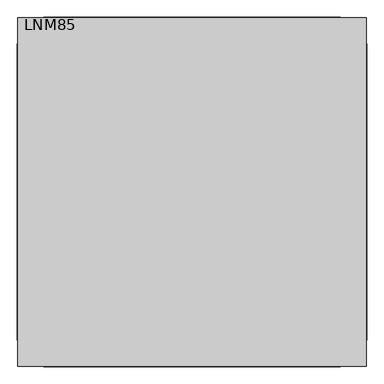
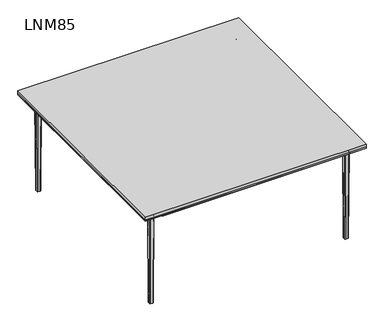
"""IFC4 building model written with IfcOpenShell, lengths in millimetres: furniture geometry, Contact Desks and Operative Twin Desks : LNM85."""

from ifc_helpers import new_model, si_unit, point, frame, origin, place, context, project, spatial, polyline, circle_curve, ellipse_curve, trimmed, outline, extrude, faceted_brep, source, transform, mapped, element, save
from ifc_brep_helpers import plane_surface, cylinder_surface, revolved_surface, extruded_surface, advanced_brep


def lnm85_bd95a6df(model_context):
    return source(origin(), model_context, "Body", "SolidModel", [
        extrude(outline(polyline([(800.0, -680.0), (800.0, -800.0), (680.0, -800.0), (680.0, -680.0), (800.0, -680.0)])), frame((0.0, 0.0, 710.0), z_axis=(0.0, 0.0, 1.0), x_axis=(1.0, 0.0, 0.0)), (0.0, 0.0, 1.0), 10.0),
        extrude(outline(polyline([(800.0, 800.0), (800.0, 680.0), (680.0, 680.0), (680.0, 800.0), (800.0, 800.0)])), frame((0.0, 0.0, 710.0), z_axis=(0.0, 0.0, 1.0), x_axis=(1.0, 0.0, 0.0)), (0.0, 0.0, 1.0), 10.0),
        extrude(outline(polyline([(-680.0, 800.0), (-680.0, 680.0), (-800.0, 680.0), (-800.0, 800.0), (-680.0, 800.0)])), frame((0.0, 0.0, 710.0), z_axis=(0.0, 0.0, 1.0), x_axis=(1.0, 0.0, 0.0)), (0.0, 0.0, 1.0), 10.0),
        extrude(outline(polyline([(-800.0, 680.0), (-680.0, 680.0), (-680.0, -680.0), (-800.0, -680.0), (-800.0, 680.0)])), frame((0.0, 0.0, 710.0), z_axis=(0.0, 0.0, 1.0), x_axis=(1.0, 0.0, 0.0)), (0.0, 0.0, 1.0), 10.0),
        extrude(outline(polyline([(680.0, 680.0), (800.0, 680.0), (800.0, -680.0), (680.0, -680.0), (680.0, 680.0)])), frame((0.0, 0.0, 710.0), z_axis=(0.0, 0.0, 1.0), x_axis=(1.0, 0.0, 0.0)), (0.0, 0.0, 1.0), 10.0),
        extrude(outline(polyline([(680.0, -680.0), (680.0, -800.0), (-680.0, -800.0), (-680.0, -680.0), (680.0, -680.0)])), frame((0.0, 0.0, 710.0), z_axis=(0.0, 0.0, 1.0), x_axis=(1.0, 0.0, 0.0)), (0.0, 0.0, 1.0), 10.0),
        extrude(outline(polyline([(680.0, 800.0), (680.0, 680.0), (-680.0, 680.0), (-680.0, 800.0), (680.0, 800.0)])), frame((0.0, 0.0, 710.0), z_axis=(0.0, 0.0, 1.0), x_axis=(1.0, 0.0, 0.0)), (0.0, 0.0, 1.0), 10.0),
        extrude(outline(polyline([(710.0, 680.0), (675.0, 680.0), (675.0, 728.7129935), (710.0, 801.7129935), (710.0, 680.0)])), frame((0.0, -680.0, 0.0), z_axis=(0.0, 1.0, 0.0), x_axis=(0.0, 0.0, 1.0)), (0.0, 0.0, 1.0), 1360.0),
        extrude(outline(polyline([(710.0, -680.0), (710.0, -801.7129935), (675.0, -728.7129935), (675.0, -680.0), (710.0, -680.0)])), frame((0.0, -680.0, 0.0), z_axis=(0.0, 1.0, 0.0), x_axis=(0.0, 0.0, 1.0)), (0.0, 0.0, 1.0), 1360.0),
        extrude(outline(polyline([(680.0, 710.0), (801.7129935, 710.0), (728.7129935, 675.0), (680.0, 675.0), (680.0, 710.0)])), frame((-680.0, 0.0, 0.0), z_axis=(1.0, 0.0, 0.0), x_axis=(0.0, 1.0, 0.0)), (0.0, 0.0, 1.0), 1360.0),
        extrude(outline(polyline([(-680.0, 710.0), (-680.0, 675.0), (-728.7129935, 675.0), (-801.7129935, 710.0), (-680.0, 710.0)])), frame((-680.0, 0.0, 0.0), z_axis=(1.0, 0.0, 0.0), x_axis=(0.0, 1.0, 0.0)), (0.0, 0.0, 1.0), 1360.0),
        faceted_brep([(-680.0, 680.0, 710.0), (-680.0, 800.0, 710.0), (-800.0, 800.0, 710.0), (-800.0, 680.0, 710.0), (-680.0, 680.0, 675.0), (-727.0, 680.0, 675.0), (-727.0, 727.0, 675.0), (-680.0, 727.0, 675.0)], [[[0, 1, 2, 3]], [[4, 5, 6, 7]], [[1, 0, 4, 7]], [[0, 3, 5, 4]], [[6, 2, 1, 7]], [[2, 6, 5, 3]]]),
        advanced_brep(
        [(-687.0, 695.0, 675.0), (-687.0, 719.0, 675.0), (-695.0, 727.0, 675.0), (-719.0, 727.0, 675.0), (-727.0, 719.0, 675.0), (-727.0, 695.0, 675.0), (-719.0, 687.0, 675.0), (-695.0, 687.0, 675.0), (-719.0, 692.0, 665.0), (-722.0, 695.0, 665.0), (-722.0, 719.0, 665.0), (-719.0, 722.0, 665.0), (-695.0, 722.0, 665.0), (-692.0, 719.0, 665.0), (-692.0, 695.0, 665.0), (-695.0, 692.0, 665.0), (-687.0, 695.0, 672.0), (-687.0, 719.0, 672.0), (-695.0, 727.0, 672.0), (-719.0, 727.0, 672.0), (-727.0, 719.0, 672.0), (-727.0, 695.0, 672.0), (-719.0, 687.0, 672.0), (-695.0, 687.0, 672.0)],
        [
            (0, 1),
            (1, 2, circle_curve(frame((-695.0, 719.0, 675.0), z_axis=(0.0, 0.0, 1.0), x_axis=(0.0, -1.0000000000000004, 0.0)), 8.0)),
            (2, 3),
            (3, 4, circle_curve(frame((-719.0, 719.0, 675.0), z_axis=(0.0, 0.0, 1.0), x_axis=(0.0, -1.0000000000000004, 0.0)), 8.0)),
            (4, 5),
            (5, 6, circle_curve(frame((-719.0, 695.0, 675.0), z_axis=(0.0, 0.0, 1.0), x_axis=(0.0, -1.0000000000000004, 0.0)), 8.0)),
            (6, 7),
            (7, 0, circle_curve(frame((-695.0, 695.0, 675.0), z_axis=(0.0, 0.0, 1.0), x_axis=(0.0, -1.0000000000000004, 0.0)), 8.0)),
            (8, 9, circle_curve(frame((-719.0, 695.0, 665.0), z_axis=(0.0, 0.0, -1.0), x_axis=(0.0, -1.0000000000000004, 0.0)), 3.0)),
            (9, 10),
            (10, 11, circle_curve(frame((-719.0, 719.0, 665.0), z_axis=(0.0, 0.0, -1.0), x_axis=(-1.0000000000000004, 0.0, 0.0)), 3.0)),
            (11, 12),
            (12, 13, circle_curve(frame((-695.0, 719.0, 665.0), z_axis=(0.0, 0.0, -1.0), x_axis=(0.0, 1.0000000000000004, 0.0)), 3.0)),
            (13, 14),
            (14, 15, circle_curve(frame((-695.0, 695.0, 665.0), z_axis=(0.0, 0.0, -1.0), x_axis=(1.0000000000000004, 0.0, 0.0)), 3.0)),
            (15, 8),
            (0, 16),
            (16, 17),
            (17, 1),
            (17, 18, circle_curve(frame((-695.0, 719.0, 672.0), z_axis=(0.0, 0.0, 1.0), x_axis=(0.0, -1.0000000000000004, 0.0)), 8.0)),
            (18, 2),
            (18, 19),
            (19, 3),
            (19, 20, circle_curve(frame((-719.0, 719.0, 672.0), z_axis=(0.0, 0.0, 1.0), x_axis=(0.0, -1.0000000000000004, 0.0)), 8.0)),
            (20, 4),
            (20, 21),
            (21, 5),
            (21, 22, circle_curve(frame((-719.0, 695.0, 672.0), z_axis=(0.0, 0.0, 1.0), x_axis=(0.0, -1.0000000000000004, 0.0)), 8.0)),
            (22, 6),
            (22, 23),
            (23, 7),
            (23, 16, circle_curve(frame((-695.0, 695.0, 672.0), z_axis=(0.0, 0.0, 1.0), x_axis=(0.0, -1.0000000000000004, 0.0)), 8.0)),
            (21, 9, circle_curve(frame((-730.9600528, 695.0, 663.8856766), z_axis=(0.0, 1.0000000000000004, 0.0), x_axis=(-1.0000000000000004, 0.0, 0.0)), 9.0290787)),
            (8, 22, circle_curve(frame((-719.0, 683.0399472, 663.8856766), z_axis=(1.0000000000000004, 0.0, 0.0), x_axis=(0.0, -1.0000000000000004, 0.0)), 9.0290787)),
            (20, 10, circle_curve(frame((-730.9600528, 719.0, 663.8856766), z_axis=(0.0, 1.0, 0.0), x_axis=(-1.0000000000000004, 0.0, 0.0)), 9.0290787)),
            (19, 11, circle_curve(frame((-719.0, 730.9600528, 663.8856766), z_axis=(1.0000000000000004, 0.0, 0.0), x_axis=(0.0, 1.0000000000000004, 0.0)), 9.0290787)),
            (18, 12, circle_curve(frame((-695.0, 730.9600528, 663.8856766), z_axis=(1.0, 0.0, 0.0), x_axis=(0.0, 1.0000000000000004, 0.0)), 9.0290787)),
            (17, 13, circle_curve(frame((-683.0399472, 719.0, 663.8856766), z_axis=(0.0, -1.0000000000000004, 0.0), x_axis=(1.0000000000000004, 0.0, 0.0)), 9.0290787)),
            (16, 14, circle_curve(frame((-683.0399472, 695.0, 663.8856766), z_axis=(0.0, -1.0, 0.0), x_axis=(1.0000000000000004, 0.0, 0.0)), 9.0290787)),
            (23, 15, circle_curve(frame((-695.0, 683.0399472, 663.8856766), z_axis=(-1.0000000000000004, 0.0, 0.0), x_axis=(0.0, -1.0000000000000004, 0.0)), 9.0290787)),
        ],
        [
            plane_surface(frame((-687.0, 1380.663284, 675.0), z_axis=(0.0, 0.0, 1.0), x_axis=(0.0, 1.0, 0.0))),
            plane_surface(frame((-687.0, 1380.663284, 665.0), z_axis=(0.0, 0.0, -1.0), x_axis=(0.0, -1.0, 0.0))),
            plane_surface(frame((-687.0, 695.0, 675.0), z_axis=(1.0, 0.0, 0.0), x_axis=(0.0, 0.0, -1.0))),
            cylinder_surface(frame((-695.0, 719.0, 665.0), z_axis=(0.0, 0.0, 1.0), x_axis=(0.0, -1.0000000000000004, 0.0)), 8.0),
            plane_surface(frame((-695.0, 727.0, 675.0), z_axis=(0.0, 1.0, 0.0), x_axis=(0.0, 0.0, -1.0))),
            cylinder_surface(frame((-719.0, 719.0, 665.0), z_axis=(0.0, 0.0, 1.0), x_axis=(0.0, -1.0000000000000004, 0.0)), 8.0),
            plane_surface(frame((-727.0, 719.0, 675.0), z_axis=(-1.0, 0.0, 0.0), x_axis=(0.0, 0.0, -1.0))),
            cylinder_surface(frame((-719.0, 695.0, 665.0), z_axis=(0.0, 0.0, 1.0), x_axis=(0.0, -1.0000000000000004, 0.0)), 8.0),
            plane_surface(frame((-719.0, 687.0, 675.0), z_axis=(0.0, -1.0, 0.0), x_axis=(0.0, 0.0, -1.0))),
            cylinder_surface(frame((-695.0, 695.0, 665.0), z_axis=(0.0, 0.0, 1.0), x_axis=(0.0, -1.0000000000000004, 0.0)), 8.0),
            revolved_surface(trimmed(ellipse_curve(frame((-719.0, 683.0399472, 663.8856766), z_axis=(-1.0000000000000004, 0.0, 0.0), x_axis=(0.0, -1.0000000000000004, 0.0)), 9.0290787, 9.0290787), [point((-719.0, 687.0, 672.0))], [point((-719.0, 692.0, 665.0))], True, "CARTESIAN"), (-719.0, 695.0, 0.0), (0.0, 0.0, -1.0)),
            revolved_surface(polyline([(-739.9891315, 695.0, 663.8856766), (-739.9891315, 719.0, 663.8856766)]), (-730.9600528, 695.0, 663.8856766), (0.0, -1.0000000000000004, 0.0)),
            revolved_surface(trimmed(ellipse_curve(frame((-730.9600528, 719.0, 663.8856766), z_axis=(0.0, 1.0000000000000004, 0.0), x_axis=(-1.0000000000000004, 0.0, 0.0)), 9.0290787, 9.0290787), [point((-727.0, 719.0, 672.0))], [point((-722.0, 719.0, 665.0))], True, "CARTESIAN"), (-719.0, 719.0, 0.0), (0.0, 0.0, -1.0)),
            revolved_surface(polyline([(-719.0, 739.9891315, 663.8856766), (-695.0, 739.9891315, 663.8856766)]), (-719.0, 730.9600528, 663.8856766), (-1.0000000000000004, 0.0, 0.0)),
            revolved_surface(trimmed(ellipse_curve(frame((-695.0, 730.9600528, 663.8856766), z_axis=(1.0000000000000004, 0.0, 0.0), x_axis=(0.0, 1.0000000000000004, 0.0)), 9.0290787, 9.0290787), [point((-695.0, 727.0, 672.0))], [point((-695.0, 722.0, 665.0))], True, "CARTESIAN"), (-695.0, 719.0, 0.0), (0.0, 0.0, -1.0)),
            revolved_surface(polyline([(-674.0108685, 719.0, 663.8856766), (-674.0108685, 695.0, 663.8856766)]), (-683.0399472, 719.0, 663.8856766), (0.0, 1.0000000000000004, 0.0)),
            revolved_surface(trimmed(ellipse_curve(frame((-683.0399472, 695.0, 663.8856766), z_axis=(0.0, -1.0000000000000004, 0.0), x_axis=(1.0000000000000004, 0.0, 0.0)), 9.0290787, 9.0290787), [point((-687.0, 695.0, 672.0))], [point((-692.0, 695.0, 665.0))], True, "CARTESIAN"), (-695.0, 695.0, 0.0), (0.0, 0.0, -1.0)),
            revolved_surface(polyline([(-695.0, 674.0108685, 663.8856766), (-719.0, 674.0108685, 663.8856766)]), (-695.0, 683.0399472, 663.8856766), (1.0000000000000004, 0.0, 0.0)),
        ],
        [
            (0, [[1, 2, 3, 4, 5, 6, 7, 8]]),
            (1, [[9, 10, 11, 12, 13, 14, 15, 16]]),
            (2, [[-1, 17, 18, 19]]),
            (3, [[-2, -19, 20, 21]]),
            (4, [[-3, -21, 22, 23]]),
            (5, [[-4, -23, 24, 25]]),
            (6, [[-5, -25, 26, 27]]),
            (7, [[-6, -27, 28, 29]]),
            (8, [[-7, -29, 30, 31]]),
            (9, [[-8, -31, 32, -17]]),
            (10, [[33, -9, 34, -28]]),
            (11, [[-33, -26, 35, -10]]),
            (12, [[-35, -24, 36, -11]]),
            (13, [[-36, -22, 37, -12]]),
            (14, [[-37, -20, 38, -13]]),
            (15, [[-38, -18, 39, -14]]),
            (16, [[-39, -32, 40, -15]]),
            (17, [[-34, -16, -40, -30]]),
        ],
    ),
        advanced_brep(
        [(-719.0, 722.0, 665.0), (-722.0, 719.0, 665.0), (-722.0, 695.0, 665.0), (-719.0, 692.0, 665.0), (-695.0, 692.0, 665.0), (-692.0, 695.0, 665.0), (-692.0, 719.0, 665.0), (-695.0, 722.0, 665.0), (-716.0, 719.0, 0.0), (-698.0, 719.0, 0.0), (-695.0, 716.0, 0.0), (-695.0, 698.0, 0.0), (-698.0, 695.0, 0.0), (-716.0, 695.0, 0.0), (-719.0, 698.0, 0.0), (-719.0, 716.0, 0.0)],
        [
            (0, 1, circle_curve(frame((-719.0, 719.0, 665.0), z_axis=(0.0, 0.0, 1.0), x_axis=(0.0, -1.0, 0.0)), 3.0)),
            (1, 2),
            (2, 3, circle_curve(frame((-719.0, 695.0, 665.0), z_axis=(0.0, 0.0, 1.0), x_axis=(0.0, -1.0, 0.0)), 3.0)),
            (3, 4),
            (4, 5, circle_curve(frame((-695.0, 695.0, 665.0), z_axis=(0.0, 0.0, 1.0), x_axis=(0.0, -1.0, 0.0)), 3.0)),
            (5, 6),
            (6, 7, circle_curve(frame((-695.0, 719.0, 665.0), z_axis=(0.0, 0.0, 1.0), x_axis=(0.0, -1.0, 0.0)), 3.0)),
            (7, 0),
            (8, 9),
            (9, 10, circle_curve(frame((-698.0, 716.0, 0.0), z_axis=(0.0, 0.0, -1.0), x_axis=(0.0, -1.0, 0.0)), 3.0)),
            (10, 11),
            (11, 12, circle_curve(frame((-698.0, 698.0, 0.0), z_axis=(0.0, 0.0, -1.0), x_axis=(0.0, -1.0, 0.0)), 3.0)),
            (12, 13),
            (13, 14, circle_curve(frame((-716.0, 698.0, 0.0), z_axis=(0.0, 0.0, -1.0), x_axis=(0.0, -1.0, 0.0)), 3.0)),
            (14, 15),
            (15, 8, circle_curve(frame((-716.0, 716.0, 0.0), z_axis=(0.0, 0.0, -1.0), x_axis=(0.0, -1.0, 0.0)), 3.0)),
            (15, 1),
            (0, 8),
            (14, 2),
            (13, 3),
            (12, 4),
            (11, 5),
            (10, 6),
            (9, 7),
        ],
        [
            plane_surface(frame((-707.0, 707.0, 665.0), z_axis=(0.0, 0.0, 1.0), x_axis=(0.0, 1.0, 0.0))),
            plane_surface(frame((-707.0, 707.0, 0.0), z_axis=(0.0, 0.0, -1.0), x_axis=(0.0, 1.0, 0.0))),
            extruded_surface(trimmed(circle_curve(frame((-716.0, 716.0, 0.0), z_axis=(0.0, 0.0, 1.0), x_axis=(0.0, -1.0, 0.0)), 3.0), [point((-716.0, 719.0, 0.0))], [point((-719.0, 716.0, 0.0))], True, "CARTESIAN"), (-3.0, 3.0, 665.0), 665.0135336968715),
            plane_surface(frame((-719.0, 707.0, 0.0), z_axis=(-0.9999898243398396, 0.0, -0.004511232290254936), x_axis=(0.0, -1.0, 0.0))),
            extruded_surface(trimmed(circle_curve(frame((-716.0, 698.0, 0.0), z_axis=(0.0, 0.0, 1.0), x_axis=(0.0, -1.0, 0.0)), 3.0), [point((-719.0, 698.0, 0.0))], [point((-716.0, 695.0, 0.0))], True, "CARTESIAN"), (-3.0, -3.0, 665.0), 665.0135336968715),
            plane_surface(frame((-707.0, 695.0, 0.0), z_axis=(0.0, -0.9999898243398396, -0.004511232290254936), x_axis=(1.0, 0.0, 0.0))),
            extruded_surface(trimmed(circle_curve(frame((-698.0, 698.0, 0.0), z_axis=(0.0, 0.0, 1.0), x_axis=(0.0, -1.0, 0.0)), 3.0), [point((-698.0, 695.0, 0.0))], [point((-695.0, 698.0, 0.0))], True, "CARTESIAN"), (3.0, -3.0, 665.0), 665.0135336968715),
            plane_surface(frame((-695.0, 707.0, 0.0), z_axis=(0.9999898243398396, 0.0, -0.004511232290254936), x_axis=(0.0, 1.0, 0.0))),
            extruded_surface(trimmed(circle_curve(frame((-698.0, 716.0, 0.0), z_axis=(0.0, 0.0, 1.0), x_axis=(0.0, -1.0, 0.0)), 3.0), [point((-695.0, 716.0, 0.0))], [point((-698.0, 719.0, 0.0))], True, "CARTESIAN"), (3.0, 3.0, 665.0), 665.0135336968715),
            plane_surface(frame((-707.0, 719.0, 0.0), z_axis=(0.0, 0.9999898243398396, -0.004511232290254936), x_axis=(-1.0, 0.0, 0.0))),
        ],
        [
            (0, [[1, 2, 3, 4, 5, 6, 7, 8]]),
            (1, [[9, 10, 11, 12, 13, 14, 15, 16]]),
            (2, [[-16, 17, -1, 18]]),
            (3, [[-15, 19, -2, -17]]),
            (4, [[-14, 20, -3, -19]]),
            (5, [[-13, 21, -4, -20]]),
            (6, [[-12, 22, -5, -21]]),
            (7, [[-11, 23, -6, -22]]),
            (8, [[-10, 24, -7, -23]]),
            (9, [[-9, -18, -8, -24]]),
        ],
    ),
        faceted_brep([(680.0, -680.0, 710.0), (680.0, -800.0, 710.0), (800.0, -800.0, 710.0), (800.0, -680.0, 710.0), (680.0, -680.0, 675.0), (727.0, -680.0, 675.0), (727.0, -727.0, 675.0), (680.0, -727.0, 675.0)], [[[0, 1, 2, 3]], [[4, 5, 6, 7]], [[1, 0, 4, 7]], [[0, 3, 5, 4]], [[6, 2, 1, 7]], [[2, 6, 5, 3]]]),
        advanced_brep(
        [(687.0, -695.0, 675.0), (687.0, -719.0, 675.0), (695.0, -727.0, 675.0), (719.0, -727.0, 675.0), (727.0, -719.0, 675.0), (727.0, -695.0, 675.0), (719.0, -687.0, 675.0), (695.0, -687.0, 675.0), (719.0, -692.0, 665.0), (722.0, -695.0, 665.0), (722.0, -719.0, 665.0), (719.0, -722.0, 665.0), (695.0, -722.0, 665.0), (692.0, -719.0, 665.0), (692.0, -695.0, 665.0), (695.0, -692.0, 665.0), (687.0, -695.0, 672.0), (687.0, -719.0, 672.0), (695.0, -727.0, 672.0), (719.0, -727.0, 672.0), (727.0, -719.0, 672.0), (727.0, -695.0, 672.0), (719.0, -687.0, 672.0), (695.0, -687.0, 672.0)],
        [
            (0, 1),
            (1, 2, circle_curve(frame((695.0, -719.0, 675.0), z_axis=(0.0, 0.0, 1.0), x_axis=(0.0, 1.0000000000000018, 0.0)), 8.0)),
            (2, 3),
            (3, 4, circle_curve(frame((719.0, -719.0, 675.0), z_axis=(0.0, 0.0, 1.0), x_axis=(0.0, 1.0000000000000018, 0.0)), 8.0)),
            (4, 5),
            (5, 6, circle_curve(frame((719.0, -695.0, 675.0), z_axis=(0.0, 0.0, 1.0), x_axis=(0.0, 1.0000000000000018, 0.0)), 8.0)),
            (6, 7),
            (7, 0, circle_curve(frame((695.0, -695.0, 675.0), z_axis=(0.0, 0.0, 1.0), x_axis=(0.0, 1.0000000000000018, 0.0)), 8.0)),
            (8, 9, circle_curve(frame((719.0, -695.0, 665.0), z_axis=(0.0, 0.0, -1.0), x_axis=(0.0, 1.0000000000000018, 0.0)), 3.0)),
            (9, 10),
            (10, 11, circle_curve(frame((719.0, -719.0, 665.0), z_axis=(0.0, 0.0, -1.0), x_axis=(1.0000000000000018, 0.0, 0.0)), 3.0)),
            (11, 12),
            (12, 13, circle_curve(frame((695.0, -719.0, 665.0), z_axis=(0.0, 0.0, -1.0), x_axis=(0.0, -1.0000000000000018, 0.0)), 3.0)),
            (13, 14),
            (14, 15, circle_curve(frame((695.0, -695.0, 665.0), z_axis=(0.0, 0.0, -1.0), x_axis=(-1.0000000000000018, 0.0, 0.0)), 3.0)),
            (15, 8),
            (0, 16),
            (16, 17),
            (17, 1),
            (17, 18, circle_curve(frame((695.0, -719.0, 672.0), z_axis=(0.0, 0.0, 1.0), x_axis=(0.0, 1.0000000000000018, 0.0)), 8.0)),
            (18, 2),
            (18, 19),
            (19, 3),
            (19, 20, circle_curve(frame((719.0, -719.0, 672.0), z_axis=(0.0, 0.0, 1.0), x_axis=(0.0, 1.0000000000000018, 0.0)), 8.0)),
            (20, 4),
            (20, 21),
            (21, 5),
            (21, 22, circle_curve(frame((719.0, -695.0, 672.0), z_axis=(0.0, 0.0, 1.0), x_axis=(0.0, 1.0000000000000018, 0.0)), 8.0)),
            (22, 6),
            (22, 23),
            (23, 7),
            (23, 16, circle_curve(frame((695.0, -695.0, 672.0), z_axis=(0.0, 0.0, 1.0), x_axis=(0.0, 1.0000000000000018, 0.0)), 8.0)),
            (21, 9, circle_curve(frame((730.9600528, -695.0, 663.8856766), z_axis=(0.0, -1.0000000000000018, 0.0), x_axis=(1.0000000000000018, 0.0, 0.0)), 9.0290787)),
            (8, 22, circle_curve(frame((719.0, -683.0399472, 663.8856766), z_axis=(-1.0000000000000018, 0.0, 0.0), x_axis=(0.0, 1.0000000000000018, 0.0)), 9.0290787)),
            (20, 10, circle_curve(frame((730.9600528, -719.0, 663.8856766), z_axis=(0.0, -1.0, 0.0), x_axis=(1.0000000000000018, 0.0, 0.0)), 9.0290787)),
            (19, 11, circle_curve(frame((719.0, -730.9600528, 663.8856766), z_axis=(-1.0000000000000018, 0.0, 0.0), x_axis=(0.0, -1.0000000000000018, 0.0)), 9.0290787)),
            (18, 12, circle_curve(frame((695.0, -730.9600528, 663.8856766), z_axis=(-1.0, 0.0, 0.0), x_axis=(0.0, -1.0000000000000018, 0.0)), 9.0290787)),
            (17, 13, circle_curve(frame((683.0399472, -719.0, 663.8856766), z_axis=(0.0, 1.0000000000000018, 0.0), x_axis=(-1.0000000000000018, 0.0, 0.0)), 9.0290787)),
            (16, 14, circle_curve(frame((683.0399472, -695.0, 663.8856766), z_axis=(0.0, 1.0, 0.0), x_axis=(-1.0000000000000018, 0.0, 0.0)), 9.0290787)),
            (23, 15, circle_curve(frame((695.0, -683.0399472, 663.8856766), z_axis=(1.0000000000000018, 0.0, 0.0), x_axis=(0.0, 1.0000000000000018, 0.0)), 9.0290787)),
        ],
        [
            plane_surface(frame((687.0, -1380.663284, 675.0), z_axis=(0.0, 0.0, 1.0), x_axis=(0.0, -1.0, 0.0))),
            plane_surface(frame((687.0, -1380.663284, 665.0), z_axis=(0.0, 0.0, -1.0), x_axis=(0.0, 1.0, 0.0))),
            plane_surface(frame((687.0, -695.0, 675.0), z_axis=(-1.0, 0.0, 0.0), x_axis=(0.0, 0.0, -1.0))),
            cylinder_surface(frame((695.0, -719.0, 665.0), z_axis=(0.0, 0.0, 1.0), x_axis=(0.0, 1.0000000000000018, 0.0)), 8.0),
            plane_surface(frame((695.0, -727.0, 675.0), z_axis=(0.0, -1.0, 0.0), x_axis=(0.0, 0.0, -1.0))),
            cylinder_surface(frame((719.0, -719.0, 665.0), z_axis=(0.0, 0.0, 1.0), x_axis=(0.0, 1.0000000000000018, 0.0)), 8.0),
            plane_surface(frame((727.0, -719.0, 675.0), z_axis=(1.0, 0.0, 0.0), x_axis=(0.0, 0.0, -1.0))),
            cylinder_surface(frame((719.0, -695.0, 665.0), z_axis=(0.0, 0.0, 1.0), x_axis=(0.0, 1.0000000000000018, 0.0)), 8.0),
            plane_surface(frame((719.0, -687.0, 675.0), z_axis=(0.0, 1.0, 0.0), x_axis=(0.0, 0.0, -1.0))),
            cylinder_surface(frame((695.0, -695.0, 665.0), z_axis=(0.0, 0.0, 1.0), x_axis=(0.0, 1.0000000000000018, 0.0)), 8.0),
            revolved_surface(trimmed(ellipse_curve(frame((719.0, -683.0399472, 663.8856766), z_axis=(1.0000000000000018, 0.0, 0.0), x_axis=(0.0, 1.0000000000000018, 0.0)), 9.0290787, 9.0290787), [point((719.0, -687.0, 672.0))], [point((719.0, -692.0, 665.0))], True, "CARTESIAN"), (719.0, -695.0, 0.0), (0.0, 0.0, -1.0)),
            revolved_surface(polyline([(739.9891315, -695.0, 663.8856766), (739.9891315, -719.0000000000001, 663.8856766)]), (730.9600528, -695.0, 663.8856766), (0.0, 1.0000000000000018, 0.0)),
            revolved_surface(trimmed(ellipse_curve(frame((730.9600528, -719.0, 663.8856766), z_axis=(0.0, -1.0000000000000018, 0.0), x_axis=(1.0000000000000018, 0.0, 0.0)), 9.0290787, 9.0290787), [point((727.0, -719.0, 672.0))], [point((722.0, -719.0, 665.0))], True, "CARTESIAN"), (719.0, -719.0, 0.0), (0.0, 0.0, -1.0)),
            revolved_surface(polyline([(719.0, -739.9891315, 663.8856766), (694.9999999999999, -739.9891315, 663.8856766)]), (719.0, -730.9600528, 663.8856766), (1.0000000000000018, 0.0, 0.0)),
            revolved_surface(trimmed(ellipse_curve(frame((695.0, -730.9600528, 663.8856766), z_axis=(-1.0000000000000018, 0.0, 0.0), x_axis=(0.0, -1.0000000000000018, 0.0)), 9.0290787, 9.0290787), [point((695.0, -727.0, 672.0))], [point((695.0, -722.0, 665.0))], True, "CARTESIAN"), (695.0, -719.0, 0.0), (0.0, 0.0, -1.0)),
            revolved_surface(polyline([(674.0108685, -719.0, 663.8856766), (674.0108685, -694.9999999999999, 663.8856766)]), (683.0399472, -719.0, 663.8856766), (0.0, -1.0000000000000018, 0.0)),
            revolved_surface(trimmed(ellipse_curve(frame((683.0399472, -695.0, 663.8856766), z_axis=(0.0, 1.0000000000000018, 0.0), x_axis=(-1.0000000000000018, 0.0, 0.0)), 9.0290787, 9.0290787), [point((687.0, -695.0, 672.0))], [point((692.0, -695.0, 665.0))], True, "CARTESIAN"), (695.0, -695.0, 0.0), (0.0, 0.0, -1.0)),
            revolved_surface(polyline([(695.0, -674.0108685, 663.8856766), (719.0000000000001, -674.0108685, 663.8856766)]), (695.0, -683.0399472, 663.8856766), (-1.0000000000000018, 0.0, 0.0)),
        ],
        [
            (0, [[1, 2, 3, 4, 5, 6, 7, 8]]),
            (1, [[9, 10, 11, 12, 13, 14, 15, 16]]),
            (2, [[-1, 17, 18, 19]]),
            (3, [[-2, -19, 20, 21]]),
            (4, [[-3, -21, 22, 23]]),
            (5, [[-4, -23, 24, 25]]),
            (6, [[-5, -25, 26, 27]]),
            (7, [[-6, -27, 28, 29]]),
            (8, [[-7, -29, 30, 31]]),
            (9, [[-8, -31, 32, -17]]),
            (10, [[33, -9, 34, -28]]),
            (11, [[-33, -26, 35, -10]]),
            (12, [[-35, -24, 36, -11]]),
            (13, [[-36, -22, 37, -12]]),
            (14, [[-37, -20, 38, -13]]),
            (15, [[-38, -18, 39, -14]]),
            (16, [[-39, -32, 40, -15]]),
            (17, [[-34, -16, -40, -30]]),
        ],
    ),
        advanced_brep(
        [(719.0, -722.0, 665.0), (722.0, -719.0, 665.0), (722.0, -695.0, 665.0), (719.0, -692.0, 665.0), (695.0, -692.0, 665.0), (692.0, -695.0, 665.0), (692.0, -719.0, 665.0), (695.0, -722.0, 665.0), (716.0, -719.0, 0.0), (698.0, -719.0, 0.0), (695.0, -716.0, 0.0), (695.0, -698.0, 0.0), (698.0, -695.0, 0.0), (716.0, -695.0, 0.0), (719.0, -698.0, 0.0), (719.0, -716.0, 0.0)],
        [
            (0, 1, circle_curve(frame((719.0, -719.0, 665.0), z_axis=(0.0, 0.0, 1.0), x_axis=(0.0, 1.0, 0.0)), 3.0)),
            (1, 2),
            (2, 3, circle_curve(frame((719.0, -695.0, 665.0), z_axis=(0.0, 0.0, 1.0), x_axis=(0.0, 1.0, 0.0)), 3.0)),
            (3, 4),
            (4, 5, circle_curve(frame((695.0, -695.0, 665.0), z_axis=(0.0, 0.0, 1.0), x_axis=(0.0, 1.0, 0.0)), 3.0)),
            (5, 6),
            (6, 7, circle_curve(frame((695.0, -719.0, 665.0), z_axis=(0.0, 0.0, 1.0), x_axis=(0.0, 1.0, 0.0)), 3.0)),
            (7, 0),
            (8, 9),
            (9, 10, circle_curve(frame((698.0, -716.0, 0.0), z_axis=(0.0, 0.0, -1.0), x_axis=(0.0, 1.0, 0.0)), 3.0)),
            (10, 11),
            (11, 12, circle_curve(frame((698.0, -698.0, 0.0), z_axis=(0.0, 0.0, -1.0), x_axis=(0.0, 1.0, 0.0)), 3.0)),
            (12, 13),
            (13, 14, circle_curve(frame((716.0, -698.0, 0.0), z_axis=(0.0, 0.0, -1.0), x_axis=(0.0, 1.0, 0.0)), 3.0)),
            (14, 15),
            (15, 8, circle_curve(frame((716.0, -716.0, 0.0), z_axis=(0.0, 0.0, -1.0), x_axis=(0.0, 1.0, 0.0)), 3.0)),
            (15, 1),
            (0, 8),
            (14, 2),
            (13, 3),
            (12, 4),
            (11, 5),
            (10, 6),
            (9, 7),
        ],
        [
            plane_surface(frame((707.0, -707.0, 665.0), z_axis=(0.0, 0.0, 1.0), x_axis=(0.0, -1.0, 0.0))),
            plane_surface(frame((707.0, -707.0, 0.0), z_axis=(0.0, 0.0, -1.0), x_axis=(0.0, -1.0, 0.0))),
            extruded_surface(trimmed(circle_curve(frame((716.0, -716.0, 0.0), z_axis=(0.0, 0.0, 1.0), x_axis=(0.0, 1.0, 0.0)), 3.0), [point((716.0, -719.0, 0.0))], [point((719.0, -716.0, 0.0))], True, "CARTESIAN"), (3.0, -3.0, 665.0), 665.0135336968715),
            plane_surface(frame((719.0, -707.0, 0.0), z_axis=(0.9999898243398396, 0.0, -0.004511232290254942), x_axis=(0.0, 1.0, 0.0))),
            extruded_surface(trimmed(circle_curve(frame((716.0, -698.0, 0.0), z_axis=(0.0, 0.0, 1.0), x_axis=(0.0, 1.0, 0.0)), 3.0), [point((719.0, -698.0, 0.0))], [point((716.0, -695.0, 0.0))], True, "CARTESIAN"), (3.0, 3.0, 665.0), 665.0135336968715),
            plane_surface(frame((707.0, -695.0, 0.0), z_axis=(0.0, 0.9999898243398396, -0.004511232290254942), x_axis=(-1.0, 0.0, 0.0))),
            extruded_surface(trimmed(circle_curve(frame((698.0, -698.0, 0.0), z_axis=(0.0, 0.0, 1.0), x_axis=(0.0, 1.0, 0.0)), 3.0), [point((698.0, -695.0, 0.0))], [point((695.0, -698.0, 0.0))], True, "CARTESIAN"), (-3.0, 3.0, 665.0), 665.0135336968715),
            plane_surface(frame((695.0, -707.0, 0.0), z_axis=(-0.9999898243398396, 0.0, -0.004511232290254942), x_axis=(0.0, -1.0, 0.0))),
            extruded_surface(trimmed(circle_curve(frame((698.0, -716.0, 0.0), z_axis=(0.0, 0.0, 1.0), x_axis=(0.0, 1.0, 0.0)), 3.0), [point((695.0, -716.0, 0.0))], [point((698.0, -719.0, 0.0))], True, "CARTESIAN"), (-3.0, -3.0, 665.0), 665.0135336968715),
            plane_surface(frame((707.0, -719.0, 0.0), z_axis=(0.0, -0.9999898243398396, -0.004511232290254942), x_axis=(1.0, 0.0, 0.0))),
        ],
        [
            (0, [[1, 2, 3, 4, 5, 6, 7, 8]]),
            (1, [[9, 10, 11, 12, 13, 14, 15, 16]]),
            (2, [[-16, 17, -1, 18]]),
            (3, [[-15, 19, -2, -17]]),
            (4, [[-14, 20, -3, -19]]),
            (5, [[-13, 21, -4, -20]]),
            (6, [[-12, 22, -5, -21]]),
            (7, [[-11, 23, -6, -22]]),
            (8, [[-10, 24, -7, -23]]),
            (9, [[-9, -18, -8, -24]]),
        ],
    ),
        faceted_brep([(680.0, 680.0, 710.0), (800.0, 680.0, 710.0), (800.0, 800.0, 710.0), (680.0, 800.0, 710.0), (680.0, 680.0, 675.0), (680.0, 727.0, 675.0), (727.0, 727.0, 675.0), (727.0, 680.0, 675.0)], [[[0, 1, 2, 3]], [[4, 5, 6, 7]], [[1, 0, 4, 7]], [[0, 3, 5, 4]], [[6, 2, 1, 7]], [[2, 6, 5, 3]]]),
        advanced_brep(
        [(695.0, 687.0, 675.0), (719.0, 687.0, 675.0), (727.0, 695.0, 675.0), (727.0, 719.0, 675.0), (719.0, 727.0, 675.0), (695.0, 727.0, 675.0), (687.0, 719.0, 675.0), (687.0, 695.0, 675.0), (692.0, 719.0, 665.0), (695.0, 722.0, 665.0), (719.0, 722.0, 665.0), (722.0, 719.0, 665.0), (722.0, 695.0, 665.0), (719.0, 692.0, 665.0), (695.0, 692.0, 665.0), (692.0, 695.0, 665.0), (695.0, 687.0, 672.0), (719.0, 687.0, 672.0), (727.0, 695.0, 672.0), (727.0, 719.0, 672.0), (719.0, 727.0, 672.0), (695.0, 727.0, 672.0), (687.0, 719.0, 672.0), (687.0, 695.0, 672.0)],
        [
            (0, 1),
            (1, 2, circle_curve(frame((719.0, 695.0, 675.0), z_axis=(0.0, 0.0, 1.0), x_axis=(-1.0000000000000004, 0.0, 0.0)), 8.0)),
            (2, 3),
            (3, 4, circle_curve(frame((719.0, 719.0, 675.0), z_axis=(0.0, 0.0, 1.0), x_axis=(-1.0000000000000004, 0.0, 0.0)), 8.0)),
            (4, 5),
            (5, 6, circle_curve(frame((695.0, 719.0, 675.0), z_axis=(0.0, 0.0, 1.0), x_axis=(-1.0000000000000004, 0.0, 0.0)), 8.0)),
            (6, 7),
            (7, 0, circle_curve(frame((695.0, 695.0, 675.0), z_axis=(0.0, 0.0, 1.0), x_axis=(-1.0000000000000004, 0.0, 0.0)), 8.0)),
            (8, 9, circle_curve(frame((695.0, 719.0, 665.0), z_axis=(0.0, 0.0, -1.0), x_axis=(-1.0000000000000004, 0.0, 0.0)), 3.0)),
            (9, 10),
            (10, 11, circle_curve(frame((719.0, 719.0, 665.0), z_axis=(0.0, 0.0, -1.0), x_axis=(0.0, 1.0000000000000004, 0.0)), 3.0)),
            (11, 12),
            (12, 13, circle_curve(frame((719.0, 695.0, 665.0), z_axis=(0.0, 0.0, -1.0), x_axis=(1.0000000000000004, 0.0, 0.0)), 3.0)),
            (13, 14),
            (14, 15, circle_curve(frame((695.0, 695.0, 665.0), z_axis=(0.0, 0.0, -1.0), x_axis=(0.0, -1.0000000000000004, 0.0)), 3.0)),
            (15, 8),
            (0, 16),
            (16, 17),
            (17, 1),
            (17, 18, circle_curve(frame((719.0, 695.0, 672.0), z_axis=(0.0, 0.0, 1.0), x_axis=(-1.0000000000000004, 0.0, 0.0)), 8.0)),
            (18, 2),
            (18, 19),
            (19, 3),
            (19, 20, circle_curve(frame((719.0, 719.0, 672.0), z_axis=(0.0, 0.0, 1.0), x_axis=(-1.0000000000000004, 0.0, 0.0)), 8.0)),
            (20, 4),
            (20, 21),
            (21, 5),
            (21, 22, circle_curve(frame((695.0, 719.0, 672.0), z_axis=(0.0, 0.0, 1.0), x_axis=(-1.0000000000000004, 0.0, 0.0)), 8.0)),
            (22, 6),
            (22, 23),
            (23, 7),
            (23, 16, circle_curve(frame((695.0, 695.0, 672.0), z_axis=(0.0, 0.0, 1.0), x_axis=(-1.0000000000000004, 0.0, 0.0)), 8.0)),
            (21, 9, circle_curve(frame((695.0, 730.9600528, 663.8856766), z_axis=(1.0000000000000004, 0.0, 0.0), x_axis=(0.0, 1.0000000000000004, 0.0)), 9.0290787)),
            (8, 22, circle_curve(frame((683.0399472, 719.0, 663.8856766), z_axis=(0.0, -1.0000000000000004, 0.0), x_axis=(-1.0000000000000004, 0.0, 0.0)), 9.0290787)),
            (20, 10, circle_curve(frame((719.0, 730.9600528, 663.8856766), z_axis=(1.0, 0.0, 0.0), x_axis=(0.0, 1.0000000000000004, 0.0)), 9.0290787)),
            (19, 11, circle_curve(frame((730.9600528, 719.0, 663.8856766), z_axis=(0.0, -1.0000000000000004, 0.0), x_axis=(1.0000000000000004, 0.0, 0.0)), 9.0290787)),
            (18, 12, circle_curve(frame((730.9600528, 695.0, 663.8856766), z_axis=(0.0, -1.0, 0.0), x_axis=(1.0000000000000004, 0.0, 0.0)), 9.0290787)),
            (17, 13, circle_curve(frame((719.0, 683.0399472, 663.8856766), z_axis=(-1.0000000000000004, 0.0, 0.0), x_axis=(0.0, -1.0000000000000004, 0.0)), 9.0290787)),
            (16, 14, circle_curve(frame((695.0, 683.0399472, 663.8856766), z_axis=(-1.0, 0.0, 0.0), x_axis=(0.0, -1.0000000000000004, 0.0)), 9.0290787)),
            (23, 15, circle_curve(frame((683.0399472, 695.0, 663.8856766), z_axis=(0.0, 1.0000000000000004, 0.0), x_axis=(-1.0000000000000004, 0.0, 0.0)), 9.0290787)),
        ],
        [
            plane_surface(frame((1380.663284, 687.0, 675.0), z_axis=(0.0, 0.0, 1.0), x_axis=(1.0, 0.0, 0.0))),
            plane_surface(frame((1380.663284, 687.0, 665.0), z_axis=(0.0, 0.0, -1.0), x_axis=(-1.0, 0.0, 0.0))),
            plane_surface(frame((695.0, 687.0, 675.0), z_axis=(0.0, -1.0, 0.0), x_axis=(0.0, 0.0, -1.0))),
            cylinder_surface(frame((719.0, 695.0, 665.0), z_axis=(0.0, 0.0, 1.0), x_axis=(-1.0000000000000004, 0.0, 0.0)), 8.0),
            plane_surface(frame((727.0, 695.0, 675.0), z_axis=(1.0, 0.0, 0.0), x_axis=(0.0, 0.0, -1.0))),
            cylinder_surface(frame((719.0, 719.0, 665.0), z_axis=(0.0, 0.0, 1.0), x_axis=(-1.0000000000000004, 0.0, 0.0)), 8.0),
            plane_surface(frame((719.0, 727.0, 675.0), z_axis=(0.0, 1.0, 0.0), x_axis=(0.0, 0.0, -1.0))),
            cylinder_surface(frame((695.0, 719.0, 665.0), z_axis=(0.0, 0.0, 1.0), x_axis=(-1.0000000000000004, 0.0, 0.0)), 8.0),
            plane_surface(frame((687.0, 719.0, 675.0), z_axis=(-1.0, 0.0, 0.0), x_axis=(0.0, 0.0, -1.0))),
            cylinder_surface(frame((695.0, 695.0, 665.0), z_axis=(0.0, 0.0, 1.0), x_axis=(-1.0000000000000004, 0.0, 0.0)), 8.0),
            revolved_surface(trimmed(ellipse_curve(frame((683.0399472, 719.0, 663.8856766), z_axis=(0.0, 1.0000000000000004, 0.0), x_axis=(-1.0000000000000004, 0.0, 0.0)), 9.0290787, 9.0290787), [point((687.0, 719.0, 672.0))], [point((692.0, 719.0, 665.0))], True, "CARTESIAN"), (695.0, 719.0, 0.0), (0.0, 0.0, -1.0)),
            revolved_surface(polyline([(695.0, 739.9891315, 663.8856766), (719.0, 739.9891315, 663.8856766)]), (695.0, 730.9600528, 663.8856766), (-1.0000000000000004, 0.0, 0.0)),
            revolved_surface(trimmed(ellipse_curve(frame((719.0, 730.9600528, 663.8856766), z_axis=(1.0000000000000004, 0.0, 0.0), x_axis=(0.0, 1.0000000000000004, 0.0)), 9.0290787, 9.0290787), [point((719.0, 727.0, 672.0))], [point((719.0, 722.0, 665.0))], True, "CARTESIAN"), (719.0, 719.0, 0.0), (0.0, 0.0, -1.0)),
            revolved_surface(polyline([(739.9891315, 719.0, 663.8856766), (739.9891315, 695.0, 663.8856766)]), (730.9600528, 719.0, 663.8856766), (0.0, 1.0000000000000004, 0.0)),
            revolved_surface(trimmed(ellipse_curve(frame((730.9600528, 695.0, 663.8856766), z_axis=(0.0, -1.0000000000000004, 0.0), x_axis=(1.0000000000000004, 0.0, 0.0)), 9.0290787, 9.0290787), [point((727.0, 695.0, 672.0))], [point((722.0, 695.0, 665.0))], True, "CARTESIAN"), (719.0, 695.0, 0.0), (0.0, 0.0, -1.0)),
            revolved_surface(polyline([(719.0, 674.0108685, 663.8856766), (695.0, 674.0108685, 663.8856766)]), (719.0, 683.0399472, 663.8856766), (1.0000000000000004, 0.0, 0.0)),
            revolved_surface(trimmed(ellipse_curve(frame((695.0, 683.0399472, 663.8856766), z_axis=(-1.0000000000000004, 0.0, 0.0), x_axis=(0.0, -1.0000000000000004, 0.0)), 9.0290787, 9.0290787), [point((695.0, 687.0, 672.0))], [point((695.0, 692.0, 665.0))], True, "CARTESIAN"), (695.0, 695.0, 0.0), (0.0, 0.0, -1.0)),
            revolved_surface(polyline([(674.0108685, 695.0, 663.8856766), (674.0108685, 719.0, 663.8856766)]), (683.0399472, 695.0, 663.8856766), (0.0, -1.0000000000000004, 0.0)),
        ],
        [
            (0, [[1, 2, 3, 4, 5, 6, 7, 8]]),
            (1, [[9, 10, 11, 12, 13, 14, 15, 16]]),
            (2, [[-1, 17, 18, 19]]),
            (3, [[-2, -19, 20, 21]]),
            (4, [[-3, -21, 22, 23]]),
            (5, [[-4, -23, 24, 25]]),
            (6, [[-5, -25, 26, 27]]),
            (7, [[-6, -27, 28, 29]]),
            (8, [[-7, -29, 30, 31]]),
            (9, [[-8, -31, 32, -17]]),
            (10, [[33, -9, 34, -28]]),
            (11, [[-33, -26, 35, -10]]),
            (12, [[-35, -24, 36, -11]]),
            (13, [[-36, -22, 37, -12]]),
            (14, [[-37, -20, 38, -13]]),
            (15, [[-38, -18, 39, -14]]),
            (16, [[-39, -32, 40, -15]]),
            (17, [[-34, -16, -40, -30]]),
        ],
    ),
        advanced_brep(
        [(722.0, 719.0, 665.0), (719.0, 722.0, 665.0), (695.0, 722.0, 665.0), (692.0, 719.0, 665.0), (692.0, 695.0, 665.0), (695.0, 692.0, 665.0), (719.0, 692.0, 665.0), (722.0, 695.0, 665.0), (719.0, 716.0, 0.0), (719.0, 698.0, 0.0), (716.0, 695.0, 0.0), (698.0, 695.0, 0.0), (695.0, 698.0, 0.0), (695.0, 716.0, 0.0), (698.0, 719.0, 0.0), (716.0, 719.0, 0.0)],
        [
            (0, 1, circle_curve(frame((719.0, 719.0, 665.0), z_axis=(0.0, 0.0, 1.0), x_axis=(-1.0, 0.0, 0.0)), 3.0)),
            (1, 2),
            (2, 3, circle_curve(frame((695.0, 719.0, 665.0), z_axis=(0.0, 0.0, 1.0), x_axis=(-1.0, 0.0, 0.0)), 3.0)),
            (3, 4),
            (4, 5, circle_curve(frame((695.0, 695.0, 665.0), z_axis=(0.0, 0.0, 1.0), x_axis=(-1.0, 0.0, 0.0)), 3.0)),
            (5, 6),
            (6, 7, circle_curve(frame((719.0, 695.0, 665.0), z_axis=(0.0, 0.0, 1.0), x_axis=(-1.0, 0.0, 0.0)), 3.0)),
            (7, 0),
            (8, 9),
            (9, 10, circle_curve(frame((716.0, 698.0, 0.0), z_axis=(0.0, 0.0, -1.0), x_axis=(-1.0, 0.0, 0.0)), 3.0)),
            (10, 11),
            (11, 12, circle_curve(frame((698.0, 698.0, 0.0), z_axis=(0.0, 0.0, -1.0), x_axis=(-1.0, 0.0, 0.0)), 3.0)),
            (12, 13),
            (13, 14, circle_curve(frame((698.0, 716.0, 0.0), z_axis=(0.0, 0.0, -1.0), x_axis=(-1.0, 0.0, 0.0)), 3.0)),
            (14, 15),
            (15, 8, circle_curve(frame((716.0, 716.0, 0.0), z_axis=(0.0, 0.0, -1.0), x_axis=(-1.0, 0.0, 0.0)), 3.0)),
            (15, 1),
            (0, 8),
            (14, 2),
            (13, 3),
            (12, 4),
            (11, 5),
            (10, 6),
            (9, 7),
        ],
        [
            plane_surface(frame((707.0, 707.0, 665.0), z_axis=(0.0, 0.0, 1.0), x_axis=(1.0, 0.0, 0.0))),
            plane_surface(frame((707.0, 707.0, 0.0), z_axis=(0.0, 0.0, -1.0), x_axis=(1.0, 0.0, 0.0))),
            extruded_surface(trimmed(circle_curve(frame((716.0, 716.0, 0.0), z_axis=(0.0, 0.0, 1.0), x_axis=(-1.0, 0.0, 0.0)), 3.0), [point((719.0, 716.0, 0.0))], [point((716.0, 719.0, 0.0))], True, "CARTESIAN"), (3.0, 3.0, 665.0), 665.0135336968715),
            plane_surface(frame((707.0, 719.0, 0.0), z_axis=(0.0, 0.9999898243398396, -0.004511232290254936), x_axis=(-1.0, 0.0, 0.0))),
            extruded_surface(trimmed(circle_curve(frame((698.0, 716.0, 0.0), z_axis=(0.0, 0.0, 1.0), x_axis=(-1.0, 0.0, 0.0)), 3.0), [point((698.0, 719.0, 0.0))], [point((695.0, 716.0, 0.0))], True, "CARTESIAN"), (-3.0, 3.0, 665.0), 665.0135336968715),
            plane_surface(frame((695.0, 707.0, 0.0), z_axis=(-0.9999898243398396, 0.0, -0.004511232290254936), x_axis=(0.0, -1.0, 0.0))),
            extruded_surface(trimmed(circle_curve(frame((698.0, 698.0, 0.0), z_axis=(0.0, 0.0, 1.0), x_axis=(-1.0, 0.0, 0.0)), 3.0), [point((695.0, 698.0, 0.0))], [point((698.0, 695.0, 0.0))], True, "CARTESIAN"), (-3.0, -3.0, 665.0), 665.0135336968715),
            plane_surface(frame((707.0, 695.0, 0.0), z_axis=(0.0, -0.9999898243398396, -0.004511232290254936), x_axis=(1.0, 0.0, 0.0))),
            extruded_surface(trimmed(circle_curve(frame((716.0, 698.0, 0.0), z_axis=(0.0, 0.0, 1.0), x_axis=(-1.0, 0.0, 0.0)), 3.0), [point((716.0, 695.0, 0.0))], [point((719.0, 698.0, 0.0))], True, "CARTESIAN"), (3.0, -3.0, 665.0), 665.0135336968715),
            plane_surface(frame((719.0, 707.0, 0.0), z_axis=(0.9999898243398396, 0.0, -0.004511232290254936), x_axis=(0.0, 1.0, 0.0))),
        ],
        [
            (0, [[1, 2, 3, 4, 5, 6, 7, 8]]),
            (1, [[9, 10, 11, 12, 13, 14, 15, 16]]),
            (2, [[-16, 17, -1, 18]]),
            (3, [[-15, 19, -2, -17]]),
            (4, [[-14, 20, -3, -19]]),
            (5, [[-13, 21, -4, -20]]),
            (6, [[-12, 22, -5, -21]]),
            (7, [[-11, 23, -6, -22]]),
            (8, [[-10, 24, -7, -23]]),
            (9, [[-9, -18, -8, -24]]),
        ],
    ),
        faceted_brep([(-680.0, -680.0, 710.0), (-800.0, -680.0, 710.0), (-800.0, -800.0, 710.0), (-680.0, -800.0, 710.0), (-680.0, -680.0, 675.0), (-680.0, -727.0, 675.0), (-727.0, -727.0, 675.0), (-727.0, -680.0, 675.0)], [[[0, 1, 2, 3]], [[4, 5, 6, 7]], [[1, 0, 4, 7]], [[0, 3, 5, 4]], [[6, 2, 1, 7]], [[2, 6, 5, 3]]]),
        advanced_brep(
        [(-695.0, -687.0, 675.0), (-719.0, -687.0, 675.0), (-727.0, -695.0, 675.0), (-727.0, -719.0, 675.0), (-719.0, -727.0, 675.0), (-695.0, -727.0, 675.0), (-687.0, -719.0, 675.0), (-687.0, -695.0, 675.0), (-692.0, -719.0, 665.0), (-695.0, -722.0, 665.0), (-719.0, -722.0, 665.0), (-722.0, -719.0, 665.0), (-722.0, -695.0, 665.0), (-719.0, -692.0, 665.0), (-695.0, -692.0, 665.0), (-692.0, -695.0, 665.0), (-695.0, -687.0, 672.0), (-719.0, -687.0, 672.0), (-727.0, -695.0, 672.0), (-727.0, -719.0, 672.0), (-719.0, -727.0, 672.0), (-695.0, -727.0, 672.0), (-687.0, -719.0, 672.0), (-687.0, -695.0, 672.0)],
        [
            (0, 1),
            (1, 2, circle_curve(frame((-719.0, -695.0, 675.0), z_axis=(0.0, 0.0, 1.0), x_axis=(1.0, 0.0, 0.0)), 8.0)),
            (2, 3),
            (3, 4, circle_curve(frame((-719.0, -719.0, 675.0), z_axis=(0.0, 0.0, 1.0), x_axis=(1.0, 0.0, 0.0)), 8.0)),
            (4, 5),
            (5, 6, circle_curve(frame((-695.0, -719.0, 675.0), z_axis=(0.0, 0.0, 1.0), x_axis=(1.0, 0.0, 0.0)), 8.0)),
            (6, 7),
            (7, 0, circle_curve(frame((-695.0, -695.0, 675.0), z_axis=(0.0, 0.0, 1.0), x_axis=(1.0, 0.0, 0.0)), 8.0)),
            (8, 9, circle_curve(frame((-695.0, -719.0, 665.0), z_axis=(0.0, 0.0, -1.0), x_axis=(1.0, 0.0, 0.0)), 3.0)),
            (9, 10),
            (10, 11, circle_curve(frame((-719.0, -719.0, 665.0), z_axis=(0.0, 0.0, -1.0), x_axis=(0.0, -1.0, 0.0)), 3.0)),
            (11, 12),
            (12, 13, circle_curve(frame((-719.0, -695.0, 665.0), z_axis=(0.0, 0.0, -1.0), x_axis=(-1.0, 0.0, 0.0)), 3.0)),
            (13, 14),
            (14, 15, circle_curve(frame((-695.0, -695.0, 665.0), z_axis=(0.0, 0.0, -1.0), x_axis=(0.0, 1.0, 0.0)), 3.0)),
            (15, 8),
            (0, 16),
            (16, 17),
            (17, 1),
            (17, 18, circle_curve(frame((-719.0, -695.0, 672.0), z_axis=(0.0, 0.0, 1.0), x_axis=(1.0, 0.0, 0.0)), 8.0)),
            (18, 2),
            (18, 19),
            (19, 3),
            (19, 20, circle_curve(frame((-719.0, -719.0, 672.0), z_axis=(0.0, 0.0, 1.0), x_axis=(1.0, 0.0, 0.0)), 8.0)),
            (20, 4),
            (20, 21),
            (21, 5),
            (21, 22, circle_curve(frame((-695.0, -719.0, 672.0), z_axis=(0.0, 0.0, 1.0), x_axis=(1.0, 0.0, 0.0)), 8.0)),
            (22, 6),
            (22, 23),
            (23, 7),
            (23, 16, circle_curve(frame((-695.0, -695.0, 672.0), z_axis=(0.0, 0.0, 1.0), x_axis=(1.0, 0.0, 0.0)), 8.0)),
            (21, 9, circle_curve(frame((-695.0, -730.9600528, 663.8856766), z_axis=(-1.0, 0.0, 0.0), x_axis=(0.0, -1.0, 0.0)), 9.0290787)),
            (8, 22, circle_curve(frame((-683.0399472, -719.0, 663.8856766), z_axis=(0.0, 1.0, 0.0), x_axis=(1.0, 0.0, 0.0)), 9.0290787)),
            (20, 10, circle_curve(frame((-719.0, -730.9600528, 663.8856766), z_axis=(-1.0, 0.0, 0.0), x_axis=(0.0, -1.0, 0.0)), 9.0290787)),
            (19, 11, circle_curve(frame((-730.9600528, -719.0, 663.8856766), z_axis=(0.0, 1.0, 0.0), x_axis=(-1.0, 0.0, 0.0)), 9.0290787)),
            (18, 12, circle_curve(frame((-730.9600528, -695.0, 663.8856766), z_axis=(0.0, 1.0, 0.0), x_axis=(-1.0, 0.0, 0.0)), 9.0290787)),
            (17, 13, circle_curve(frame((-719.0, -683.0399472, 663.8856766), z_axis=(1.0, 0.0, 0.0), x_axis=(0.0, 1.0, 0.0)), 9.0290787)),
            (16, 14, circle_curve(frame((-695.0, -683.0399472, 663.8856766), z_axis=(1.0, 0.0, 0.0), x_axis=(0.0, 1.0, 0.0)), 9.0290787)),
            (23, 15, circle_curve(frame((-683.0399472, -695.0, 663.8856766), z_axis=(0.0, -1.0, 0.0), x_axis=(1.0, 0.0, 0.0)), 9.0290787)),
        ],
        [
            plane_surface(frame((-1380.663284, -687.0, 675.0), z_axis=(0.0, 0.0, 1.0), x_axis=(-1.0, 0.0, 0.0))),
            plane_surface(frame((-1380.663284, -687.0, 665.0), z_axis=(0.0, 0.0, -1.0), x_axis=(1.0, 0.0, 0.0))),
            plane_surface(frame((-695.0, -687.0, 675.0), z_axis=(0.0, 1.0, 0.0), x_axis=(0.0, 0.0, -1.0))),
            cylinder_surface(frame((-719.0, -695.0, 665.0), z_axis=(0.0, 0.0, 1.0), x_axis=(1.0, 0.0, 0.0)), 8.0),
            plane_surface(frame((-727.0, -695.0, 675.0), z_axis=(-1.0, 0.0, 0.0), x_axis=(0.0, 0.0, -1.0))),
            cylinder_surface(frame((-719.0, -719.0, 665.0), z_axis=(0.0, 0.0, 1.0), x_axis=(1.0, 0.0, 0.0)), 8.0),
            plane_surface(frame((-719.0, -727.0, 675.0), z_axis=(0.0, -1.0, 0.0), x_axis=(0.0, 0.0, -1.0))),
            cylinder_surface(frame((-695.0, -719.0, 665.0), z_axis=(0.0, 0.0, 1.0), x_axis=(1.0, 0.0, 0.0)), 8.0),
            plane_surface(frame((-687.0, -719.0, 675.0), z_axis=(1.0, 0.0, 0.0), x_axis=(0.0, 0.0, -1.0))),
            cylinder_surface(frame((-695.0, -695.0, 665.0), z_axis=(0.0, 0.0, 1.0), x_axis=(1.0, 0.0, 0.0)), 8.0),
            revolved_surface(trimmed(ellipse_curve(frame((-683.0399472, -719.0, 663.8856766), z_axis=(0.0, -1.0, 0.0), x_axis=(1.0, 0.0, 0.0)), 9.0290787, 9.0290787), [point((-687.0, -719.0, 672.0))], [point((-692.0, -719.0, 665.0))], True, "CARTESIAN"), (-695.0, -719.0, 0.0), (0.0, 0.0, -1.0)),
            revolved_surface(polyline([(-695.0, -739.9891315, 663.8856766), (-719.0, -739.9891315, 663.8856766)]), (-695.0, -730.9600528, 663.8856766), (1.0, 0.0, 0.0)),
            revolved_surface(trimmed(ellipse_curve(frame((-719.0, -730.9600528, 663.8856766), z_axis=(-1.0, 0.0, 0.0), x_axis=(0.0, -1.0, 0.0)), 9.0290787, 9.0290787), [point((-719.0, -727.0, 672.0))], [point((-719.0, -722.0, 665.0))], True, "CARTESIAN"), (-719.0, -719.0, 0.0), (0.0, 0.0, -1.0)),
            revolved_surface(polyline([(-739.9891315, -719.0, 663.8856766), (-739.9891315, -695.0, 663.8856766)]), (-730.9600528, -719.0, 663.8856766), (0.0, -1.0, 0.0)),
            revolved_surface(trimmed(ellipse_curve(frame((-730.9600528, -695.0, 663.8856766), z_axis=(0.0, 1.0, 0.0), x_axis=(-1.0, 0.0, 0.0)), 9.0290787, 9.0290787), [point((-727.0, -695.0, 672.0))], [point((-722.0, -695.0, 665.0))], True, "CARTESIAN"), (-719.0, -695.0, 0.0), (0.0, 0.0, -1.0)),
            revolved_surface(polyline([(-719.0, -674.0108685, 663.8856766), (-695.0, -674.0108685, 663.8856766)]), (-719.0, -683.0399472, 663.8856766), (-1.0, 0.0, 0.0)),
            revolved_surface(trimmed(ellipse_curve(frame((-695.0, -683.0399472, 663.8856766), z_axis=(1.0, 0.0, 0.0), x_axis=(0.0, 1.0, 0.0)), 9.0290787, 9.0290787), [point((-695.0, -687.0, 672.0))], [point((-695.0, -692.0, 665.0))], True, "CARTESIAN"), (-695.0, -695.0, 0.0), (0.0, 0.0, -1.0)),
            revolved_surface(polyline([(-674.0108685, -695.0, 663.8856766), (-674.0108685, -719.0, 663.8856766)]), (-683.0399472, -695.0, 663.8856766), (0.0, 1.0, 0.0)),
        ],
        [
            (0, [[1, 2, 3, 4, 5, 6, 7, 8]]),
            (1, [[9, 10, 11, 12, 13, 14, 15, 16]]),
            (2, [[-1, 17, 18, 19]]),
            (3, [[-2, -19, 20, 21]]),
            (4, [[-3, -21, 22, 23]]),
            (5, [[-4, -23, 24, 25]]),
            (6, [[-5, -25, 26, 27]]),
            (7, [[-6, -27, 28, 29]]),
            (8, [[-7, -29, 30, 31]]),
            (9, [[-8, -31, 32, -17]]),
            (10, [[33, -9, 34, -28]]),
            (11, [[-33, -26, 35, -10]]),
            (12, [[-35, -24, 36, -11]]),
            (13, [[-36, -22, 37, -12]]),
            (14, [[-37, -20, 38, -13]]),
            (15, [[-38, -18, 39, -14]]),
            (16, [[-39, -32, 40, -15]]),
            (17, [[-34, -16, -40, -30]]),
        ],
    ),
        advanced_brep(
        [(-722.0, -719.0, 665.0), (-719.0, -722.0, 665.0), (-695.0, -722.0, 665.0), (-692.0, -719.0, 665.0), (-692.0, -695.0, 665.0), (-695.0, -692.0, 665.0), (-719.0, -692.0, 665.0), (-722.0, -695.0, 665.0), (-719.0, -716.0, 0.0), (-719.0, -698.0, 0.0), (-716.0, -695.0, 0.0), (-698.0, -695.0, 0.0), (-695.0, -698.0, 0.0), (-695.0, -716.0, 0.0), (-698.0, -719.0, 0.0), (-716.0, -719.0, 0.0)],
        [
            (0, 1, circle_curve(frame((-719.0, -719.0, 665.0), z_axis=(0.0, 0.0, 1.0), x_axis=(1.0, 0.0, 0.0)), 3.0)),
            (1, 2),
            (2, 3, circle_curve(frame((-695.0, -719.0, 665.0), z_axis=(0.0, 0.0, 1.0), x_axis=(1.0, 0.0, 0.0)), 3.0)),
            (3, 4),
            (4, 5, circle_curve(frame((-695.0, -695.0, 665.0), z_axis=(0.0, 0.0, 1.0), x_axis=(1.0, 0.0, 0.0)), 3.0)),
            (5, 6),
            (6, 7, circle_curve(frame((-719.0, -695.0, 665.0), z_axis=(0.0, 0.0, 1.0), x_axis=(1.0, 0.0, 0.0)), 3.0)),
            (7, 0),
            (8, 9),
            (9, 10, circle_curve(frame((-716.0, -698.0, 0.0), z_axis=(0.0, 0.0, -1.0), x_axis=(1.0, 0.0, 0.0)), 3.0)),
            (10, 11),
            (11, 12, circle_curve(frame((-698.0, -698.0, 0.0), z_axis=(0.0, 0.0, -1.0), x_axis=(1.0, 0.0, 0.0)), 3.0)),
            (12, 13),
            (13, 14, circle_curve(frame((-698.0, -716.0, 0.0), z_axis=(0.0, 0.0, -1.0), x_axis=(1.0, 0.0, 0.0)), 3.0)),
            (14, 15),
            (15, 8, circle_curve(frame((-716.0, -716.0, 0.0), z_axis=(0.0, 0.0, -1.0), x_axis=(1.0, 0.0, 0.0)), 3.0)),
            (15, 1),
            (0, 8),
            (14, 2),
            (13, 3),
            (12, 4),
            (11, 5),
            (10, 6),
            (9, 7),
        ],
        [
            plane_surface(frame((-707.0, -707.0, 665.0), z_axis=(0.0, 0.0, 1.0), x_axis=(-1.0, 0.0, 0.0))),
            plane_surface(frame((-707.0, -707.0, 0.0), z_axis=(0.0, 0.0, -1.0), x_axis=(-1.0, 0.0, 0.0))),
            extruded_surface(trimmed(circle_curve(frame((-716.0, -716.0, 0.0), z_axis=(0.0, 0.0, 1.0), x_axis=(1.0, 0.0, 0.0)), 3.0), [point((-719.0, -716.0, 0.0))], [point((-716.0, -719.0, 0.0))], True, "CARTESIAN"), (-3.0, -3.0, 665.0), 665.0135336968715),
            plane_surface(frame((-707.0, -719.0, 0.0), z_axis=(0.0, -0.9999898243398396, -0.004511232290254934), x_axis=(1.0, 0.0, 0.0))),
            extruded_surface(trimmed(circle_curve(frame((-698.0, -716.0, 0.0), z_axis=(0.0, 0.0, 1.0), x_axis=(1.0, 0.0, 0.0)), 3.0), [point((-698.0, -719.0, 0.0))], [point((-695.0, -716.0, 0.0))], True, "CARTESIAN"), (3.0, -3.0, 665.0), 665.0135336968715),
            plane_surface(frame((-695.0, -707.0, 0.0), z_axis=(0.9999898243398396, 0.0, -0.004511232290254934), x_axis=(0.0, 1.0, 0.0))),
            extruded_surface(trimmed(circle_curve(frame((-698.0, -698.0, 0.0), z_axis=(0.0, 0.0, 1.0), x_axis=(1.0, 0.0, 0.0)), 3.0), [point((-695.0, -698.0, 0.0))], [point((-698.0, -695.0, 0.0))], True, "CARTESIAN"), (3.0, 3.0, 665.0), 665.0135336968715),
            plane_surface(frame((-707.0, -695.0, 0.0), z_axis=(0.0, 0.9999898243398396, -0.004511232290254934), x_axis=(-1.0, 0.0, 0.0))),
            extruded_surface(trimmed(circle_curve(frame((-716.0, -698.0, 0.0), z_axis=(0.0, 0.0, 1.0), x_axis=(1.0, 0.0, 0.0)), 3.0), [point((-716.0, -695.0, 0.0))], [point((-719.0, -698.0, 0.0))], True, "CARTESIAN"), (-3.0, 3.0, 665.0), 665.0135336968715),
            plane_surface(frame((-719.0, -707.0, 0.0), z_axis=(-0.9999898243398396, 0.0, -0.004511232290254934), x_axis=(0.0, -1.0, 0.0))),
        ],
        [
            (0, [[1, 2, 3, 4, 5, 6, 7, 8]]),
            (1, [[9, 10, 11, 12, 13, 14, 15, 16]]),
            (2, [[-16, 17, -1, 18]]),
            (3, [[-15, 19, -2, -17]]),
            (4, [[-14, 20, -3, -19]]),
            (5, [[-13, 21, -4, -20]]),
            (6, [[-12, 22, -5, -21]]),
            (7, [[-11, 23, -6, -22]]),
            (8, [[-10, 24, -7, -23]]),
            (9, [[-9, -18, -8, -24]]),
        ],
    ),
        extrude(outline(polyline([(-680.0, -680.0), (-680.0, -800.0), (-800.0, -800.0), (-800.0, -680.0), (-680.0, -680.0)])), frame((0.0, 0.0, 710.0), z_axis=(0.0, 0.0, 1.0), x_axis=(1.0, 0.0, 0.0)), (0.0, 0.0, 1.0), 10.0),
        extrude(outline(polyline([(800.0, 800.0), (800.0, -800.0), (-800.0, -800.0), (-800.0, 800.0), (800.0, 800.0)])), frame((0.0, 0.0, 720.0), z_axis=(0.0, 0.0, 1.0), x_axis=(1.0, 0.0, 0.0)), (0.0, 0.0, 1.0), 20.0),
    ])


if __name__ == "__main__":
    model = new_model("IFC4")
    model_context = context("Model", 3, world=origin())
    ifc_project = project(units=[si_unit("LENGTHUNIT", "METRE", prefix="MILLI")], contexts=[model_context])
    site = spatial("IfcSite", under=ifc_project)
    building = spatial("IfcBuilding", under=site)
    placement = place(None, origin())
    lnm85_shape = lnm85_bd95a6df(model_context)
    element("IfcFurniture", 1, ObjectType="Contact Desks and Operative Twin Desks : LNM85", at=placement, inside=building, context=model_context, shape_type="MappedRepresentation", body=[
        mapped(lnm85_shape, transform((0.0, 0.0, 0.0), x_axis=(1.0, 0.0, 0.0), y_axis=(0.0, 1.0, 0.0), z_axis=(0.0, 0.0, 1.0))),
    ])
    save(model, "model.ifc")
